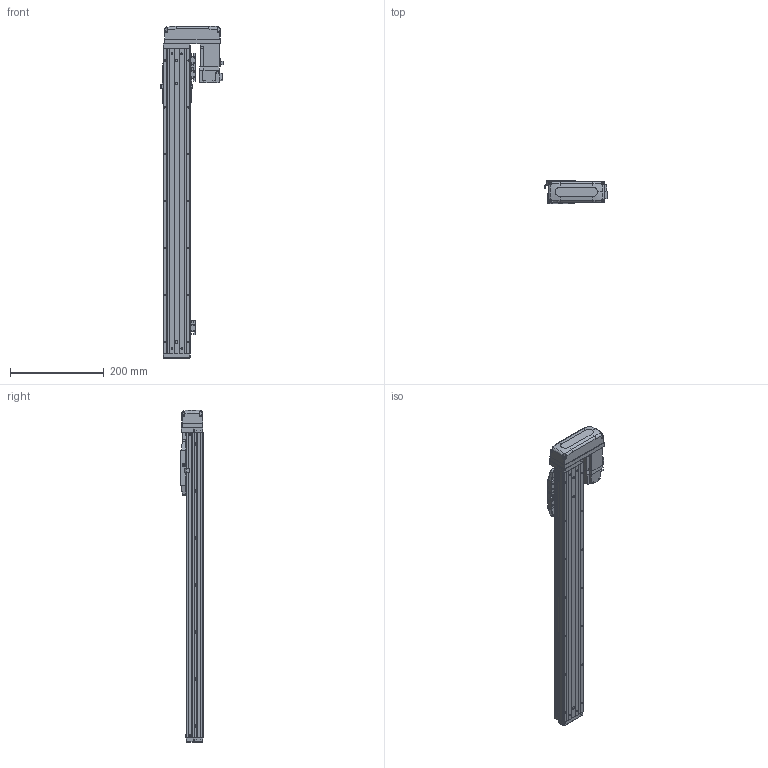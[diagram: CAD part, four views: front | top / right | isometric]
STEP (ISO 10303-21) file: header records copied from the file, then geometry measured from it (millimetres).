
FILE_DESCRIPTION (( 'STEP AP203' ), '1' );
FILE_NAME ('CTHA50-500-BL-M10-C4L.step', '2022-03-19T06:00:13', ( '微软用户' ), ( '微软中国' ), 'SwSTEP 2.0', 'SolidWorks 2020', '' );
FILE_SCHEMA (( 'CONFIG_CONTROL_DESIGN' ));
Length unit declared in the file: millimetre
Products named in the file (20): CTHA50-015-2_CTHA60-015-2; GB¨uT 70.2-M3¡Á6_M3¡Á6; CTHA60-021; CTHA60-033; EE_SX911P_R; HG-KR13（三菱）; GBT 70.1-M3×15; GBT77-2000 M3×3; CTHA50-002; CTHA50-500-BL-M10-C4L; GBT 70.1-M3℅6; CTHA50-030; KTHA50-001_650; CTHA60-017; CTHA50-031; KTHA50-004; GBT 70.1-M4×12; GBT 70.3-M3℅6; KTHA50-005; CTHA60-016
Assembly tree (60 placements, depth 2):
  CTHA50-500-BL-M10-C4L
    KTHA50-001_650
    KTHA50-004
    KTHA50-005
    GB¨uT 70.2-M3¡Á6_M3¡Á6  x10
    EE_SX911P_R  x3
    GBT77-2000 M3×3  x6
    GBT 70.1-M3℅6  x6
    CTHA60-017  x3
    GBT 70.1-M4×12  x10
    CTHA60-016  x2
    CTHA60-021  x2
    HG-KR13（三菱）
    CTHA50-002
    CTHA50-030  x2
    CTHA50-031
    GBT 70.3-M3℅6  x4
    CTHA50-015-2_CTHA60-015-2
    CTHA60-033
    GBT 70.1-M3×15  x4
Bounding box: 132.6 x 48 x 707 mm (x, y, z)
Volume: 1382947.4 mm3; surface area: 354213.7 mm2
Topology: 62 solids, 62 shells, 2533 faces, 6023 edges, 3690 vertices
Faces by surface type: plane 1434, cylinder 588, cone 353, torus 108, bspline 26, sphere 24
Entity records: 43331 total; most frequent: CARTESIAN_POINT 7995, DIRECTION 6755, ORIENTED_EDGE 6554, EDGE_CURVE 3277, VECTOR 2295, LINE 2295, AXIS2_PLACEMENT_3D 2230, VERTEX_POINT 2064
